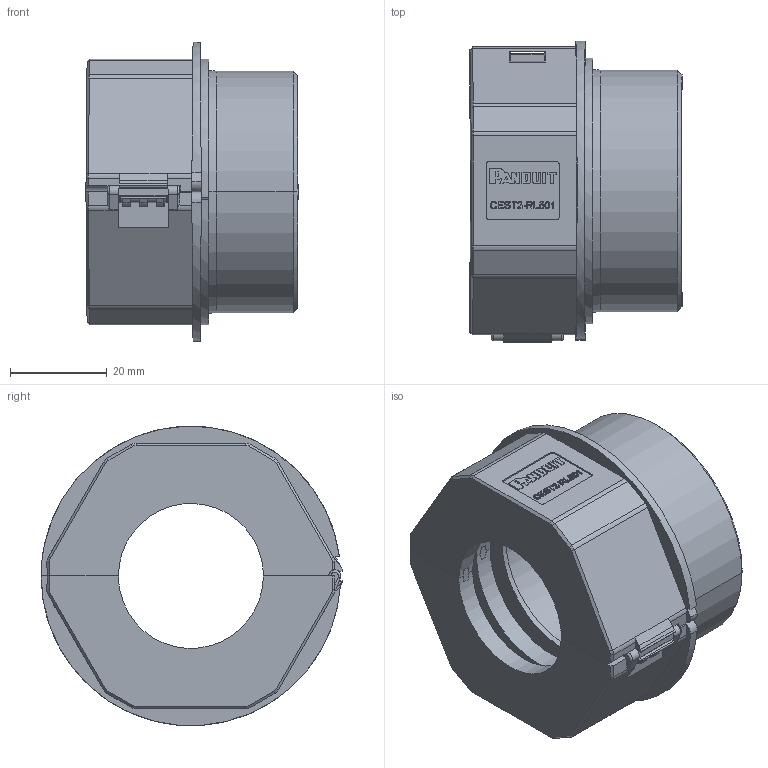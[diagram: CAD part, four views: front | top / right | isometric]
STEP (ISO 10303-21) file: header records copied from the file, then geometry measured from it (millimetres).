
FILE_DESCRIPTION(/* description */ (''),/* implementation_level */ '2;1');
FILE_NAME(/* name */ 'C:\SapWorkDir\Inventor\MP1\ConvertTempPath\87_11_121440_00_A_220615_KDL-D mono M50x1,5.stp',/* time_stamp */ '2022-06-17T11:38:56+02:00',/* author */ ('BAUER'),/* organization */ (''),/* preprocessor_version */ 'ST-DEVELOPER v16.13',/* originating_system */ 'Autodesk Inventor 2018',/* authorisation */ '');
FILE_SCHEMA (('AUTOMOTIVE_DESIGN { 1 0 10303 214 3 1 1 }'));
Length unit declared in the file: millimetre
Products named in the file (5): 121440; 121445; 121441; DHS-1_M50; DHS-2_M50
Assembly tree (4 placements, depth 2):
  121440
    121445
    121441
    DHS-1_M50
    DHS-2_M50
Bounding box: 43.91 x 62.46 x 61.97 mm (x, y, z)
Volume: 44839.1 mm3; surface area: 26060.7 mm2
Topology: 4 solids, 4 shells, 1023 faces, 2748 edges, 1779 vertices
Faces by surface type: plane 573, cylinder 245, bspline 182, cone 11, torus 10, sphere 2
Full cylindrical faces by diameter (mm): 5 x1
Entity records: 35088 total; most frequent: CARTESIAN_POINT 9606, ORIENTED_EDGE 5492, DIRECTION 4774, EDGE_CURVE 2746, LINE 1854, VECTOR 1854, VERTEX_POINT 1778, AXIS2_PLACEMENT_3D 1460
